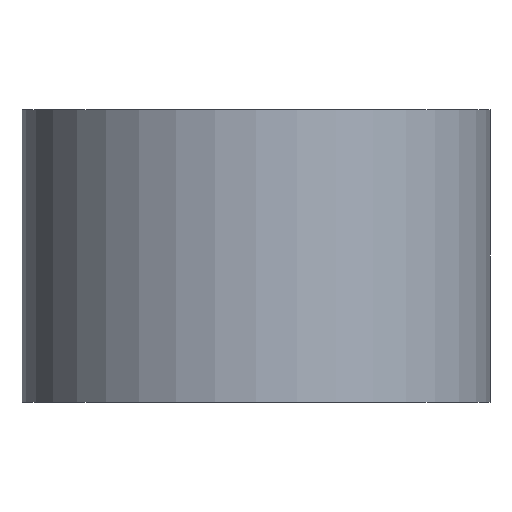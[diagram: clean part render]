
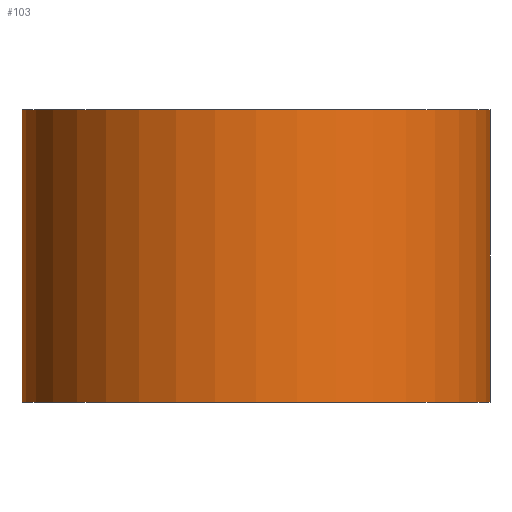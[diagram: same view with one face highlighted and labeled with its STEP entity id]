
A CAD part, left-side view. The second image highlights one B-rep face of the part: STEP entity #103.
In plain terms, the highlighted cylindrical face has radius 8 mm (diameter 16 mm), a partial arc.
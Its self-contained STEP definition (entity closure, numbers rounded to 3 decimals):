
#103=ADVANCED_FACE('',(#113),#109,.T.);
#109=CYLINDRICAL_SURFACE('',#188,8.);
#113=FACE_OUTER_BOUND('',#117,.T.);
#117=EDGE_LOOP('',(#133,#134,#135,#136));
#125=CIRCLE('',#186,8.);
#126=CIRCLE('',#187,8.);
#133=ORIENTED_EDGE('',*,*,#165,.T.);
#134=ORIENTED_EDGE('',*,*,#166,.F.);
#135=ORIENTED_EDGE('',*,*,#167,.F.);
#136=ORIENTED_EDGE('',*,*,#168,.T.);
#157=VERTEX_POINT('',#236);
#158=VERTEX_POINT('',#237);
#159=VERTEX_POINT('',#239);
#160=VERTEX_POINT('',#241);
#165=EDGE_CURVE('',#157,#158,#177,.T.);
#166=EDGE_CURVE('',#159,#158,#125,.T.);
#167=EDGE_CURVE('',#160,#159,#178,.T.);
#168=EDGE_CURVE('',#160,#157,#126,.T.);
#177=LINE('',#235,#181);
#178=LINE('',#240,#182);
#181=VECTOR('',#202,1.);
#182=VECTOR('',#205,1.);
#186=AXIS2_PLACEMENT_3D('',#238,#203,#204);
#187=AXIS2_PLACEMENT_3D('',#242,#206,#207);
#188=AXIS2_PLACEMENT_3D('',#243,#208,#209);
#202=DIRECTION('',(0.,0.,1.));
#203=DIRECTION('',(0.,0.,1.));
#204=DIRECTION('',(1.,0.,0.));
#205=DIRECTION('',(0.,0.,1.));
#206=DIRECTION('',(0.,0.,1.));
#207=DIRECTION('',(1.,0.,0.));
#208=DIRECTION('',(0.,0.,1.));
#209=DIRECTION('',(-1.,0.,0.));
#235=CARTESIAN_POINT('',(0.,-8.,0.));
#236=CARTESIAN_POINT('',(0.,-8.,0.));
#237=CARTESIAN_POINT('',(0.,-8.,10.));
#238=CARTESIAN_POINT('',(0.,0.,10.));
#239=CARTESIAN_POINT('',(0.,8.,10.));
#240=CARTESIAN_POINT('',(0.,8.,0.));
#241=CARTESIAN_POINT('',(0.,8.,0.));
#242=CARTESIAN_POINT('',(0.,0.,0.));
#243=CARTESIAN_POINT('',(0.,0.,0.));
